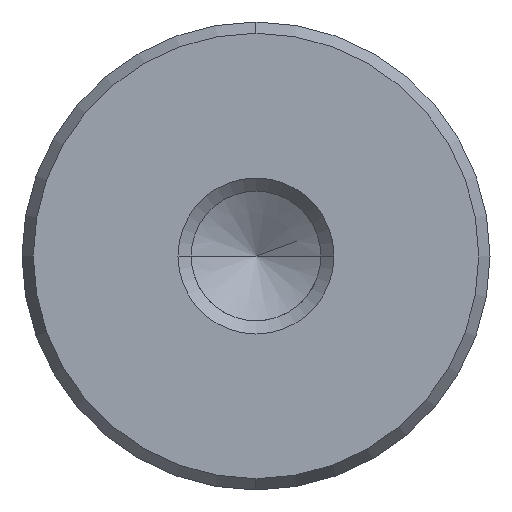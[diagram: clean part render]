
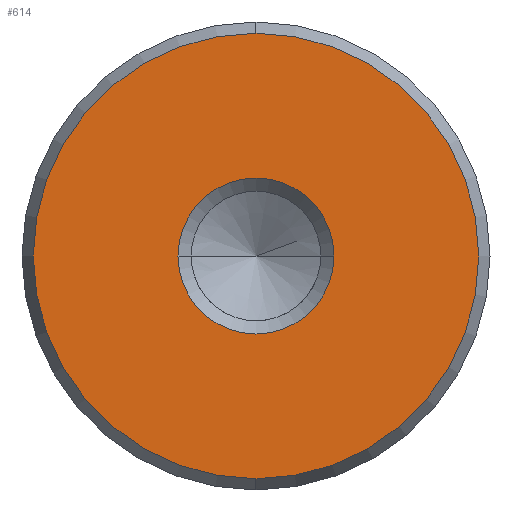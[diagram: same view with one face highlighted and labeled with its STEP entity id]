
A CAD part, left-side view. The second image highlights one B-rep face of the part: STEP entity #614.
In plain terms, the highlighted planar face has unit normal (-1, 0, 0).
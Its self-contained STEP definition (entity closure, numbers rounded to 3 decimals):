
#528=CARTESIAN_POINT('Vertex',(0.,0.,-11.423)) ;
#531=CARTESIAN_POINT('Axis2P3D Location',(0.,0.,0.)) ;
#535=CARTESIAN_POINT('Vertex',(0.,11.423,0.)) ;
#538=CARTESIAN_POINT('Axis2P3D Location',(0.,0.,0.)) ;
#542=CARTESIAN_POINT('Vertex',(0.,0.,11.423)) ;
#564=CARTESIAN_POINT('Axis2P3D Location',(0.,0.,0.)) ;
#568=CARTESIAN_POINT('Vertex',(0.,-11.423,0.)) ;
#571=CARTESIAN_POINT('Axis2P3D Location',(0.,0.,0.)) ;
#585=CARTESIAN_POINT('Axis2P3D Location',(0.,0.,0.)) ;
#596=CARTESIAN_POINT('Axis2P3D Location',(0.,0.,0.)) ;
#600=CARTESIAN_POINT('Vertex',(0.,4.,0.)) ;
#602=CARTESIAN_POINT('Vertex',(0.,-4.,0.)) ;
#605=CARTESIAN_POINT('Axis2P3D Location',(0.,0.,0.)) ;
#532=DIRECTION('Axis2P3D Direction',(1.,0.,-0.)) ;
#539=DIRECTION('Axis2P3D Direction',(1.,0.,-0.)) ;
#565=DIRECTION('Axis2P3D Direction',(1.,0.,-0.)) ;
#572=DIRECTION('Axis2P3D Direction',(1.,0.,-0.)) ;
#586=DIRECTION('Axis2P3D Direction',(1.,0.,-0.)) ;
#587=DIRECTION('Axis2P3D XDirection',(-0.,0.,-1.)) ;
#597=DIRECTION('Axis2P3D Direction',(1.,0.,-0.)) ;
#606=DIRECTION('Axis2P3D Direction',(1.,0.,-0.)) ;
#533=AXIS2_PLACEMENT_3D('Circle Axis2P3D',#531,#532,$) ;
#540=AXIS2_PLACEMENT_3D('Circle Axis2P3D',#538,#539,$) ;
#566=AXIS2_PLACEMENT_3D('Circle Axis2P3D',#564,#565,$) ;
#573=AXIS2_PLACEMENT_3D('Circle Axis2P3D',#571,#572,$) ;
#588=AXIS2_PLACEMENT_3D('Plane Axis2P3D',#585,#586,#587) ;
#598=AXIS2_PLACEMENT_3D('Circle Axis2P3D',#596,#597,$) ;
#607=AXIS2_PLACEMENT_3D('Circle Axis2P3D',#605,#606,$) ;
#591=ORIENTED_EDGE('',*,*,#537,.F.) ;
#592=ORIENTED_EDGE('',*,*,#575,.F.) ;
#593=ORIENTED_EDGE('',*,*,#570,.F.) ;
#594=ORIENTED_EDGE('',*,*,#544,.F.) ;
#611=ORIENTED_EDGE('',*,*,#604,.T.) ;
#612=ORIENTED_EDGE('',*,*,#609,.T.) ;
#613=FACE_BOUND('',#610,.T.) ;
#614=ADVANCED_FACE('720-24x250',(#595,#613),#589,.F.) ;
#534=CIRCLE('generated circle',#533,11.423) ;
#541=CIRCLE('generated circle',#540,11.423) ;
#567=CIRCLE('generated circle',#566,11.423) ;
#574=CIRCLE('generated circle',#573,11.423) ;
#599=CIRCLE('generated circle',#598,4.) ;
#608=CIRCLE('generated circle',#607,4.) ;
#537=EDGE_CURVE('',#529,#536,#534,.T.) ;
#544=EDGE_CURVE('',#536,#543,#541,.T.) ;
#570=EDGE_CURVE('',#543,#569,#567,.T.) ;
#575=EDGE_CURVE('',#569,#529,#574,.T.) ;
#604=EDGE_CURVE('',#601,#603,#599,.T.) ;
#609=EDGE_CURVE('',#603,#601,#608,.T.) ;
#590=EDGE_LOOP('',(#591,#592,#593,#594)) ;
#610=EDGE_LOOP('',(#611,#612)) ;
#595=FACE_OUTER_BOUND('',#590,.T.) ;
#589=PLANE('Plane',#588) ;
#529=VERTEX_POINT('',#528) ;
#536=VERTEX_POINT('',#535) ;
#543=VERTEX_POINT('',#542) ;
#569=VERTEX_POINT('',#568) ;
#601=VERTEX_POINT('',#600) ;
#603=VERTEX_POINT('',#602) ;
